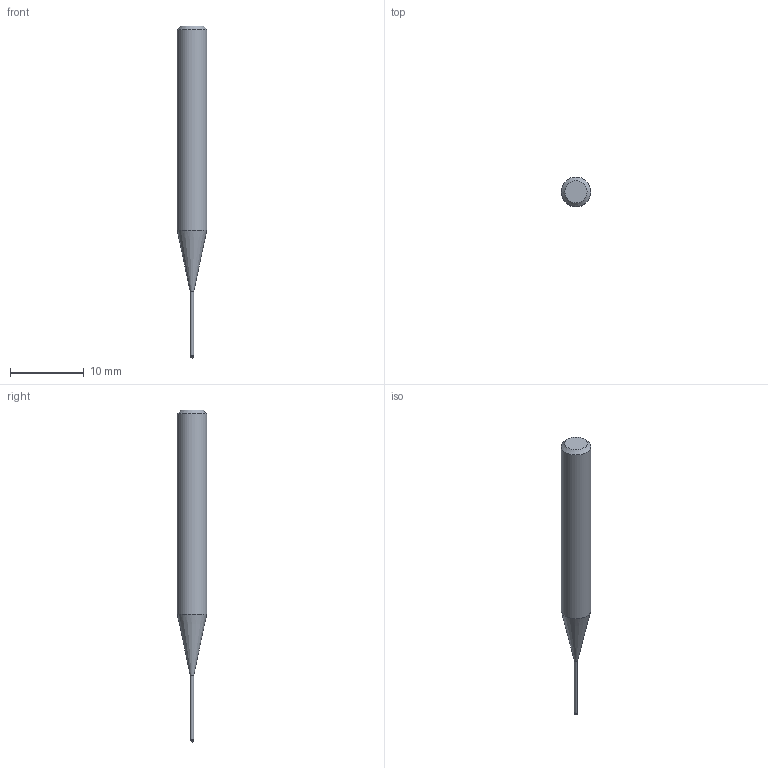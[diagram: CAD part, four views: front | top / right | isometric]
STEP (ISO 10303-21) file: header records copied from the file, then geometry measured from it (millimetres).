
FILE_DESCRIPTION((''),'2;1');
FILE_NAME('C:\Users\nsx150\AppData\Local\Temp\Mastercam 2021\ARV7HD45SN\TEMP.step','2023-06-13T16:33:42',(''),(''),'STEP Write','Mastercam 2021 ... CNC Software, Inc.','');
FILE_SCHEMA(('AUTOMOTIVE_DESIGN'));
Length unit declared in the file: millimetre
Products named in the file (1): None
Bounding box: 4 x 4 x 45 mm (x, y, z)
Volume: 387.2 mm3; surface area: 429.4 mm2
Topology: 2 solids, 2 shells, 9 faces, 14 edges, 8 vertices
Faces by surface type: plane 3, cylinder 3, cone 2, sphere 1
Full cylindrical faces by diameter (mm): 0.46 x1, 0.5 x1, 4 x1
Entity records: 211 total; most frequent: DIRECTION 36, CARTESIAN_POINT 25, AXIS2_PLACEMENT_3D 18, ORIENTED_EDGE 14, EDGE_LOOP 14, STYLED_ITEM 12, ADVANCED_FACE 9, FACE_BOUND 8
